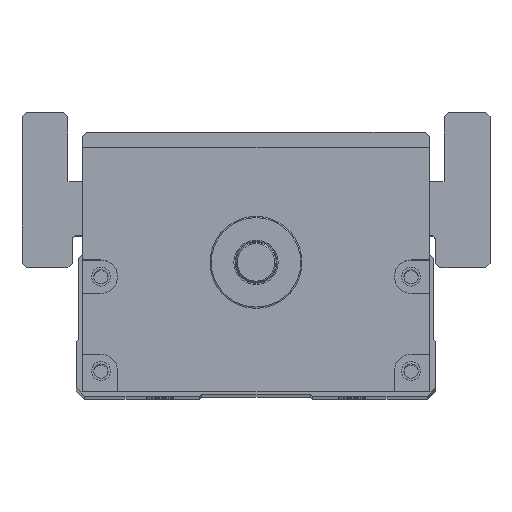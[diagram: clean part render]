
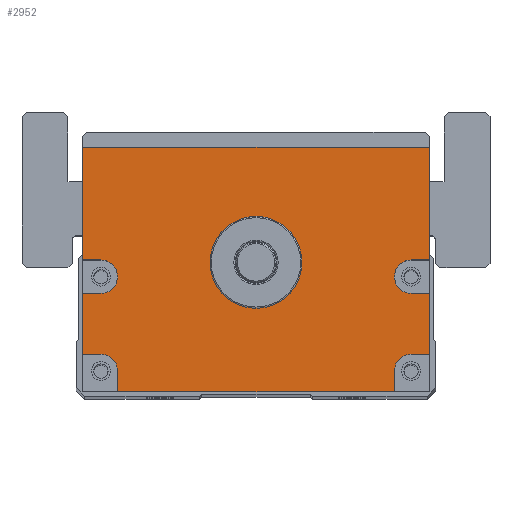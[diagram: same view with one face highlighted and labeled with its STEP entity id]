
A CAD part, top view. The second image highlights one B-rep face of the part: STEP entity #2952.
In plain terms, the highlighted planar face has unit normal (0, 0, 1).
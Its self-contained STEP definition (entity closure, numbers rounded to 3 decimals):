
#727=LINE('',#24789,#1479);
#729=LINE('',#24797,#1481);
#730=LINE('',#24800,#1482);
#731=LINE('',#24802,#1483);
#732=LINE('',#24806,#1484);
#733=LINE('',#24808,#1485);
#734=LINE('',#24809,#1486);
#735=LINE('',#24811,#1487);
#736=LINE('',#24815,#1488);
#737=LINE('',#24817,#1489);
#738=LINE('',#24819,#1490);
#739=LINE('',#24823,#1491);
#740=LINE('',#24825,#1492);
#741=LINE('',#24827,#1493);
#1479=VECTOR('',#13124,1.);
#1481=VECTOR('',#13132,1.);
#1482=VECTOR('',#13133,1.);
#1483=VECTOR('',#13134,1.);
#1484=VECTOR('',#13137,1.);
#1485=VECTOR('',#13138,1.);
#1486=VECTOR('',#13139,1.);
#1487=VECTOR('',#13140,1.);
#1488=VECTOR('',#13143,1.);
#1489=VECTOR('',#13144,1.);
#1490=VECTOR('',#13145,1.);
#1491=VECTOR('',#13148,1.);
#1492=VECTOR('',#13149,1.);
#1493=VECTOR('',#13150,1.);
#2952=ADVANCED_FACE('',(#3890,#3891),#3458,.T.);
#3458=PLANE('',#11399);
#3890=FACE_BOUND('',#4534,.T.);
#3891=FACE_BOUND('',#4535,.T.);
#4534=EDGE_LOOP('',(#6216,#6217,#6218,#6219,#6220,#6221,#6222,#6223,#6224,
#6225,#6226,#6227,#6228,#6229,#6230,#6231,#6232,#6233));
#4535=EDGE_LOOP('',(#6234));
#6216=ORIENTED_EDGE('',*,*,#9656,.F.);
#6217=ORIENTED_EDGE('',*,*,#9657,.T.);
#6218=ORIENTED_EDGE('',*,*,#9658,.F.);
#6219=ORIENTED_EDGE('',*,*,#9659,.F.);
#6220=ORIENTED_EDGE('',*,*,#9660,.F.);
#6221=ORIENTED_EDGE('',*,*,#9661,.T.);
#6222=ORIENTED_EDGE('',*,*,#9652,.T.);
#6223=ORIENTED_EDGE('',*,*,#9662,.T.);
#6224=ORIENTED_EDGE('',*,*,#9663,.F.);
#6225=ORIENTED_EDGE('',*,*,#9664,.F.);
#6226=ORIENTED_EDGE('',*,*,#9665,.F.);
#6227=ORIENTED_EDGE('',*,*,#9666,.T.);
#6228=ORIENTED_EDGE('',*,*,#9667,.F.);
#6229=ORIENTED_EDGE('',*,*,#9668,.F.);
#6230=ORIENTED_EDGE('',*,*,#9669,.F.);
#6231=ORIENTED_EDGE('',*,*,#9670,.T.);
#6232=ORIENTED_EDGE('',*,*,#9671,.F.);
#6233=ORIENTED_EDGE('',*,*,#9672,.F.);
#6234=ORIENTED_EDGE('',*,*,#9638,.T.);
#8422=VERTEX_POINT('',#24760);
#8435=VERTEX_POINT('',#24788);
#8436=VERTEX_POINT('',#24790);
#8439=VERTEX_POINT('',#24798);
#8440=VERTEX_POINT('',#24799);
#8441=VERTEX_POINT('',#24801);
#8442=VERTEX_POINT('',#24803);
#8443=VERTEX_POINT('',#24805);
#8444=VERTEX_POINT('',#24807);
#8445=VERTEX_POINT('',#24810);
#8446=VERTEX_POINT('',#24812);
#8447=VERTEX_POINT('',#24814);
#8448=VERTEX_POINT('',#24816);
#8449=VERTEX_POINT('',#24818);
#8450=VERTEX_POINT('',#24820);
#8451=VERTEX_POINT('',#24822);
#8452=VERTEX_POINT('',#24824);
#8453=VERTEX_POINT('',#24826);
#8454=VERTEX_POINT('',#24828);
#9638=EDGE_CURVE('',#8422,#8422,#10715,.T.);
#9652=EDGE_CURVE('',#8436,#8435,#727,.T.);
#9656=EDGE_CURVE('',#8439,#8440,#729,.T.);
#9657=EDGE_CURVE('',#8439,#8441,#730,.T.);
#9658=EDGE_CURVE('',#8442,#8441,#731,.T.);
#9659=EDGE_CURVE('',#8443,#8442,#10726,.T.);
#9660=EDGE_CURVE('',#8444,#8443,#732,.T.);
#9661=EDGE_CURVE('',#8444,#8436,#733,.T.);
#9662=EDGE_CURVE('',#8435,#8445,#734,.T.);
#9663=EDGE_CURVE('',#8446,#8445,#735,.T.);
#9664=EDGE_CURVE('',#8447,#8446,#10727,.T.);
#9665=EDGE_CURVE('',#8448,#8447,#736,.T.);
#9666=EDGE_CURVE('',#8448,#8449,#737,.T.);
#9667=EDGE_CURVE('',#8450,#8449,#738,.T.);
#9668=EDGE_CURVE('',#8451,#8450,#10728,.T.);
#9669=EDGE_CURVE('',#8452,#8451,#739,.T.);
#9670=EDGE_CURVE('',#8452,#8453,#740,.T.);
#9671=EDGE_CURVE('',#8454,#8453,#741,.T.);
#9672=EDGE_CURVE('',#8440,#8454,#10729,.T.);
#10715=CIRCLE('',#11381,11.);
#10726=CIRCLE('',#11395,4.);
#10727=CIRCLE('',#11396,4.);
#10728=CIRCLE('',#11397,4.);
#10729=CIRCLE('',#11398,4.);
#11381=AXIS2_PLACEMENT_3D('',#24759,#13097,#13098);
#11395=AXIS2_PLACEMENT_3D('',#24804,#13135,#13136);
#11396=AXIS2_PLACEMENT_3D('',#24813,#13141,#13142);
#11397=AXIS2_PLACEMENT_3D('',#24821,#13146,#13147);
#11398=AXIS2_PLACEMENT_3D('',#24829,#13151,#13152);
#11399=AXIS2_PLACEMENT_3D('',#24830,#13153,#13154);
#13097=DIRECTION('',(0.,0.,-1.));
#13098=DIRECTION('',(1.,0.,0.));
#13124=DIRECTION('',(-1.,0.,0.));
#13132=DIRECTION('',(-1.,0.,0.));
#13133=DIRECTION('',(0.,1.,0.));
#13134=DIRECTION('',(1.,0.,0.));
#13135=DIRECTION('',(0.,0.,1.));
#13136=DIRECTION('',(1.,0.,0.));
#13137=DIRECTION('',(-1.,0.,0.));
#13138=DIRECTION('',(0.,1.,0.));
#13139=DIRECTION('',(0.,-1.,0.));
#13140=DIRECTION('',(-1.,0.,0.));
#13141=DIRECTION('',(0.,0.,1.));
#13142=DIRECTION('',(1.,0.,0.));
#13143=DIRECTION('',(1.,0.,0.));
#13144=DIRECTION('',(0.,-1.,0.));
#13145=DIRECTION('',(-1.,0.,0.));
#13146=DIRECTION('',(0.,0.,1.));
#13147=DIRECTION('',(1.,0.,0.));
#13148=DIRECTION('',(0.,1.,0.));
#13149=DIRECTION('',(1.,0.,0.));
#13150=DIRECTION('',(0.,-1.,0.));
#13151=DIRECTION('',(0.,0.,1.));
#13152=DIRECTION('',(1.,0.,0.));
#13153=DIRECTION('',(0.,0.,1.));
#13154=DIRECTION('',(1.,0.,0.));
#24759=CARTESIAN_POINT('',(600.,0.,282.5));
#24760=CARTESIAN_POINT('',(611.,0.,282.5));
#24788=CARTESIAN_POINT('',(558.5,27.5,282.5));
#24789=CARTESIAN_POINT('',(641.5,27.5,282.5));
#24790=CARTESIAN_POINT('',(641.5,27.5,282.5));
#24797=CARTESIAN_POINT('',(641.5,-22.,282.5));
#24798=CARTESIAN_POINT('',(641.5,-22.,282.5));
#24799=CARTESIAN_POINT('',(637.115,-22.,282.5));
#24800=CARTESIAN_POINT('',(641.5,-31.,282.5));
#24801=CARTESIAN_POINT('',(641.5,-7.431,282.5));
#24802=CARTESIAN_POINT('',(641.5,-7.431,282.5));
#24803=CARTESIAN_POINT('',(637.115,-7.431,282.5));
#24804=CARTESIAN_POINT('',(637.115,-3.431,282.5));
#24805=CARTESIAN_POINT('',(637.115,0.569,282.5));
#24806=CARTESIAN_POINT('',(641.5,0.569,282.5));
#24807=CARTESIAN_POINT('',(641.5,0.569,282.5));
#24808=CARTESIAN_POINT('',(641.5,-31.,282.5));
#24809=CARTESIAN_POINT('',(558.5,27.5,282.5));
#24810=CARTESIAN_POINT('',(558.5,0.569,282.5));
#24811=CARTESIAN_POINT('',(641.5,0.569,282.5));
#24812=CARTESIAN_POINT('',(562.885,0.569,282.5));
#24813=CARTESIAN_POINT('',(562.885,-3.431,282.5));
#24814=CARTESIAN_POINT('',(562.885,-7.431,282.5));
#24815=CARTESIAN_POINT('',(641.5,-7.431,282.5));
#24816=CARTESIAN_POINT('',(558.5,-7.431,282.5));
#24817=CARTESIAN_POINT('',(558.5,27.5,282.5));
#24818=CARTESIAN_POINT('',(558.5,-22.,282.5));
#24819=CARTESIAN_POINT('',(641.5,-22.,282.5));
#24820=CARTESIAN_POINT('',(562.885,-22.,282.5));
#24821=CARTESIAN_POINT('',(562.885,-26.,282.5));
#24822=CARTESIAN_POINT('',(566.885,-26.,282.5));
#24823=CARTESIAN_POINT('',(566.885,-31.,282.5));
#24824=CARTESIAN_POINT('',(566.885,-31.,282.5));
#24825=CARTESIAN_POINT('',(558.5,-31.,282.5));
#24826=CARTESIAN_POINT('',(633.115,-31.,282.5));
#24827=CARTESIAN_POINT('',(633.115,-31.,282.5));
#24828=CARTESIAN_POINT('',(633.115,-26.,282.5));
#24829=CARTESIAN_POINT('',(637.115,-26.,282.5));
#24830=CARTESIAN_POINT('',(641.5,-31.,282.5));
